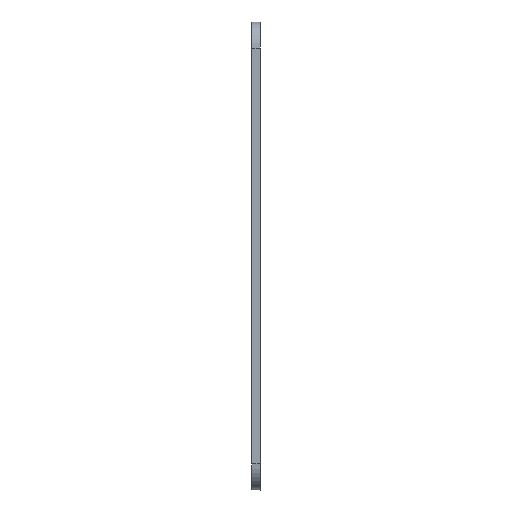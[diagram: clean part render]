
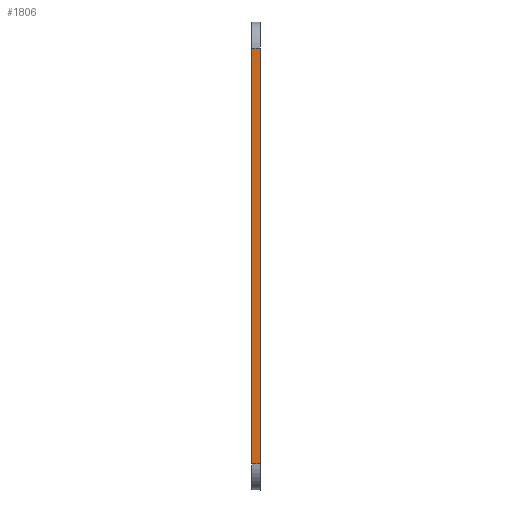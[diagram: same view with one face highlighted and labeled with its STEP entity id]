
A CAD part, left-side view. The second image highlights one B-rep face of the part: STEP entity #1806.
In plain terms, the highlighted planar face has unit normal (-1, 0, 0).
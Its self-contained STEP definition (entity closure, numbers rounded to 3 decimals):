
#118 = CARTESIAN_POINT ( 'NONE',  ( -114., 1., -47. ) ) ;
#365 = CARTESIAN_POINT ( 'NONE',  ( -114., 1., 49. ) ) ;
#561 = VERTEX_POINT ( 'NONE', #12024 ) ;
#1806 = ADVANCED_FACE ( 'NONE', ( #2898 ), #5269, .F. ) ;
#1892 = LINE ( 'NONE', #10543, #8052 ) ;
#2035 = VECTOR ( 'NONE', #3389, 1000. ) ;
#2147 = ORIENTED_EDGE ( 'NONE', *, *, #2426, .F. ) ;
#2426 = EDGE_CURVE ( 'NONE', #12152, #13418, #3417, .T. ) ;
#2707 = CARTESIAN_POINT ( 'NONE',  ( -114., -1., 49. ) ) ;
#2898 = FACE_OUTER_BOUND ( 'NONE', #3788, .T. ) ;
#3140 = DIRECTION ( 'NONE',  ( 1., 0., 0. ) ) ;
#3238 = ORIENTED_EDGE ( 'NONE', *, *, #5579, .F. ) ;
#3389 = DIRECTION ( 'NONE',  ( 0., -1., 0. ) ) ;
#3417 = LINE ( 'NONE', #11081, #12742 ) ;
#3788 = EDGE_LOOP ( 'NONE', ( #14365, #3238, #2147, #11312 ) ) ;
#5269 = PLANE ( 'NONE',  #9803 ) ;
#5579 = EDGE_CURVE ( 'NONE', #13418, #9656, #5859, .T. ) ;
#5823 = EDGE_CURVE ( 'NONE', #561, #9656, #1892, .T. ) ;
#5859 = LINE ( 'NONE', #8296, #2035 ) ;
#6584 = DIRECTION ( 'NONE',  ( 0., -1., 0. ) ) ;
#7261 = DIRECTION ( 'NONE',  ( 0., 0., 1. ) ) ;
#8052 = VECTOR ( 'NONE', #10704, 1000. ) ;
#8296 = CARTESIAN_POINT ( 'NONE',  ( -114., 1., 49. ) ) ;
#8664 = CARTESIAN_POINT ( 'NONE',  ( -114., 1., -47. ) ) ;
#8778 = LINE ( 'NONE', #118, #10713 ) ;
#9656 = VERTEX_POINT ( 'NONE', #2707 ) ;
#9803 = AXIS2_PLACEMENT_3D ( 'NONE', #365, #3140, #6584 ) ;
#10072 = EDGE_CURVE ( 'NONE', #12152, #561, #8778, .T. ) ;
#10543 = CARTESIAN_POINT ( 'NONE',  ( -114., -1., 49. ) ) ;
#10704 = DIRECTION ( 'NONE',  ( 0., 0., 1. ) ) ;
#10713 = VECTOR ( 'NONE', #11621, 1000. ) ;
#11081 = CARTESIAN_POINT ( 'NONE',  ( -114., 1., 49. ) ) ;
#11312 = ORIENTED_EDGE ( 'NONE', *, *, #10072, .T. ) ;
#11621 = DIRECTION ( 'NONE',  ( 0., -1., 0. ) ) ;
#12024 = CARTESIAN_POINT ( 'NONE',  ( -114., -1., -47. ) ) ;
#12152 = VERTEX_POINT ( 'NONE', #8664 ) ;
#12742 = VECTOR ( 'NONE', #7261, 1000. ) ;
#13418 = VERTEX_POINT ( 'NONE', #13646 ) ;
#13646 = CARTESIAN_POINT ( 'NONE',  ( -114., 1., 49. ) ) ;
#14365 = ORIENTED_EDGE ( 'NONE', *, *, #5823, .T. ) ;
